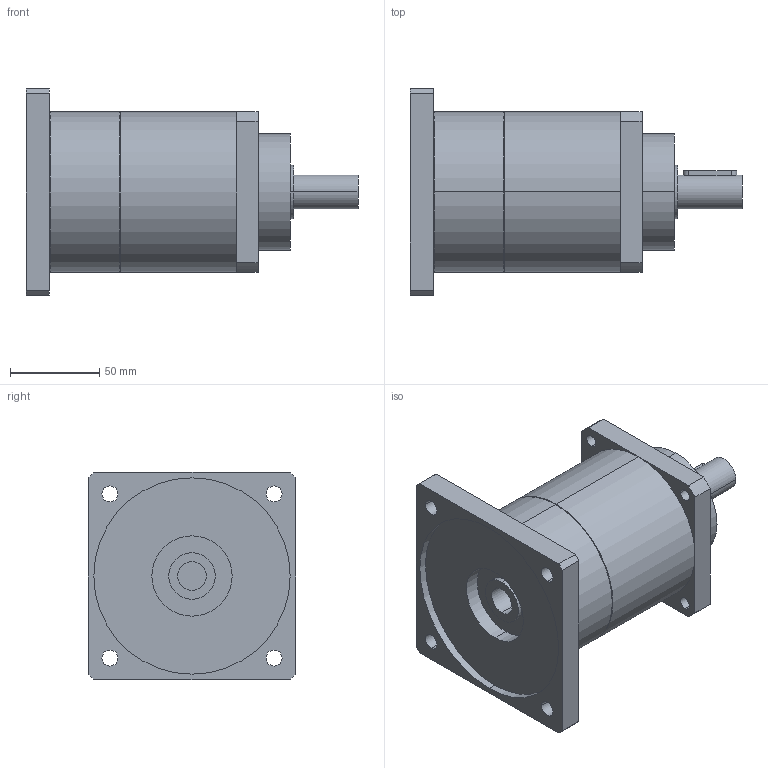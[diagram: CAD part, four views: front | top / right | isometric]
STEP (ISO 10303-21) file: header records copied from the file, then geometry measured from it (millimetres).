
FILE_DESCRIPTION(('CoCreate Modeling STEP Export'),'2;1');
FILE_NAME('GPT90_ig-9-12-16-20-25-28-35-40-50-70-100_19_B5T_15.87_P08.stp','2015-02-04T11:31:07',(''),(''),'CoCreate Modeling STEP processor for AP214 (Solid Model)','CoCreate Modeling 16.00C 25-Feb-2009 (C) Parametric Technology GmbH','');
FILE_SCHEMA(('AUTOMOTIVE_DESIGN { 1 0 10303 214 1 1 1 1 }'));
Length unit declared in the file: millimetre
Products named in the file (2): GPT90_ig-9-12-16-20-25-28-35-40-50-70-100_19_B5T_15.87_P08
Assembly tree (1 placements, depth 2):
  GPT90_ig-9-12-16-20-25-28-35-40-50-70-100_19_B5T_15.87_P08
    GPT90_ig-9-12-16-20-25-28-35-40-50-70-100_19_B5T_15.87_P08
Bounding box: 186 x 116 x 116 mm (x, y, z)
Volume: 943646.1 mm3; surface area: 83422.7 mm2
Topology: 1 solids, 1 shells, 77 faces, 206 edges, 141 vertices
Faces by surface type: cylinder 46, plane 27, cone 4
Entity records: 2596 total; most frequent: CARTESIAN_POINT 742, ORIENTED_EDGE 412, DIRECTION 324, EDGE_CURVE 206, VERTEX_POINT 141, AXIS2_PLACEMENT_3D 120, EDGE_LOOP 103, VECTOR 84
